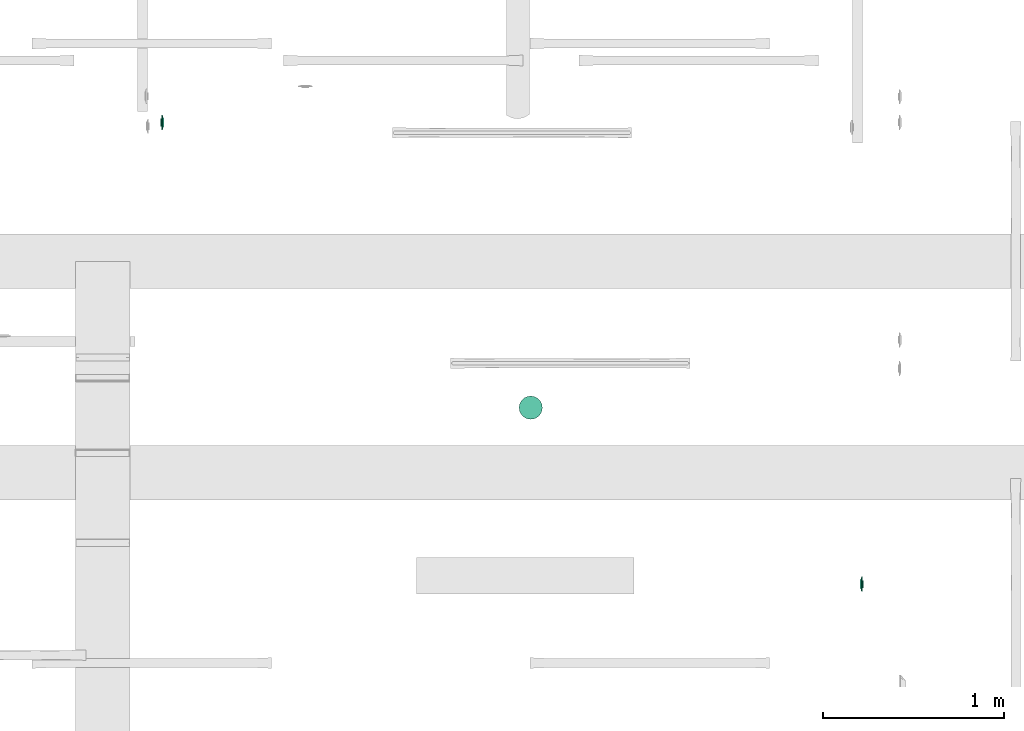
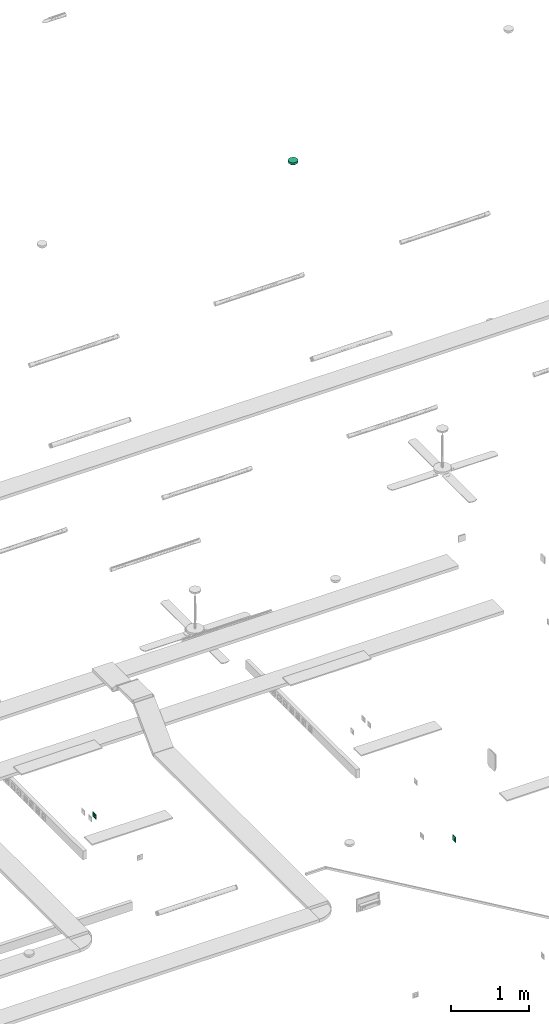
# One storey, part 127 of 153: 3 flow terminals.
"""IFC2X3 building model written with IfcOpenShell, lengths in metres."""

from ifc_helpers import new_model, entity, si_unit, converted_unit, derived_unit, direction, frame, origin, place, context, subcontext, project, spatial, faceted_brep, source, transform, mapped, type_object, type_shapes, element, save


model = new_model("IFC2X3")

# Units and contexts
model_context = context("Model", 3, precision=1e-05, world=origin(), true_north=direction((6.12303176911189e-17, 1.0)))
body_context = subcontext(model_context, "Body", "Model", "MODEL_VIEW")
ifc_project = project(units=[si_unit("LENGTHUNIT", "METRE"), si_unit("AREAUNIT", "SQUARE_METRE"), si_unit("VOLUMEUNIT", "CUBIC_METRE"), converted_unit("PLANEANGLEUNIT", "DEGREE", entity("IfcRatioMeasure", 0.0174532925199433), si_unit("PLANEANGLEUNIT", "RADIAN"), dimensions=[0, 0, 0, 0, 0, 0, 0]), si_unit("MASSUNIT", "GRAM", prefix="KILO"), derived_unit("MASSDENSITYUNIT", [(si_unit("MASSUNIT", "GRAM", prefix="KILO"), 1), (si_unit("LENGTHUNIT", "METRE"), -3)]), si_unit("TIMEUNIT", "SECOND"), si_unit("FREQUENCYUNIT", "HERTZ"), si_unit("THERMODYNAMICTEMPERATUREUNIT", "DEGREE_CELSIUS"), derived_unit("THERMALTRANSMITTANCEUNIT", [(si_unit("MASSUNIT", "GRAM", prefix="KILO"), 1), (si_unit("THERMODYNAMICTEMPERATUREUNIT", "KELVIN"), -1), (si_unit("TIMEUNIT", "SECOND"), -3)]), derived_unit("VOLUMETRICFLOWRATEUNIT", [(si_unit("LENGTHUNIT", "METRE"), 3), (si_unit("TIMEUNIT", "SECOND"), -1)]), si_unit("ELECTRICCURRENTUNIT", "AMPERE"), si_unit("ELECTRICVOLTAGEUNIT", "VOLT"), si_unit("POWERUNIT", "WATT"), si_unit("FORCEUNIT", "NEWTON"), si_unit("ILLUMINANCEUNIT", "LUX"), si_unit("LUMINOUSFLUXUNIT", "LUMEN"), si_unit("LUMINOUSINTENSITYUNIT", "CANDELA"), derived_unit("USERDEFINED", [(si_unit("MASSUNIT", "GRAM", prefix="KILO"), -1), (si_unit("LENGTHUNIT", "METRE"), -2), (si_unit("TIMEUNIT", "SECOND"), 3), (si_unit("LUMINOUSFLUXUNIT", "LUMEN"), 1)]), derived_unit("LINEARVELOCITYUNIT", [(si_unit("LENGTHUNIT", "METRE"), 1), (si_unit("TIMEUNIT", "SECOND"), -1)]), si_unit("PRESSUREUNIT", "PASCAL"), derived_unit("USERDEFINED", [(si_unit("LENGTHUNIT", "METRE"), -2), (si_unit("MASSUNIT", "GRAM", prefix="KILO"), 1), (si_unit("TIMEUNIT", "SECOND"), -2)])], contexts=[model_context])

# Site, building, storey
site_placement = place(None, origin())
site = spatial("IfcSite", under=ifc_project, at=site_placement, Name="Default", CompositionType="ELEMENT")
building_placement = place(site_placement, origin())
building = spatial("IfcBuilding", under=site, at=building_placement, CompositionType="ELEMENT")
storey_placement = place(building_placement, frame((0.0, 0.0, -4.62)))
storey = spatial("IfcBuildingStorey", under=building, at=storey_placement, Name="S02", CompositionType="ELEMENT", Elevation=-4.62)

# Flow terminals
light_fixture_type_1 = type_object("IfcLightFixtureType", Name="Détecteur 360°", PredefinedType="NOTDEFINED")
shared_shape_1 = source(origin(), body_context, "Body", "Brep", [
    faceted_brep([(0.0, -0.0397165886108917, 0.0531256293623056), (0.0, -0.034524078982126, 0.0563702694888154), (-0.0175153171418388, -0.0435914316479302, 0.0478512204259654), (-0.0194029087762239, -0.000878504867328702, 0.0644483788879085), (0.0, 0.0, 0.0669999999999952), (0.0, 0.00603476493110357, 0.0659648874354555), (-0.0174057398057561, -0.0159851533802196, 0.0630502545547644), (-0.0366619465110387, -0.0127227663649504, 0.0549213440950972), (-0.026998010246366, -0.0195753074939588, 0.0584711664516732), (-0.0202403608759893, -0.0335607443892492, 0.054639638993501), (-0.0359767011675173, -0.0348394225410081, 0.0444249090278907), (-0.0276843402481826, -0.0401006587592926, 0.0459804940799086), (-0.0133088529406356, -0.0517577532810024, 0.0400582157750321), (-0.0172617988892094, -0.0486391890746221, 0.042533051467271), (-0.0256912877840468, -0.0533485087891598, 0.0299999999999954), (-0.0462941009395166, -0.0369183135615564, 0.0299999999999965), (0.0, -0.0241390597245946, 0.0628595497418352), (-0.0186245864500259, -0.0267295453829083, 0.0589100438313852), (-0.0139070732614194, -0.0374370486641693, 0.0540817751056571), (0.0, 0.0449090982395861, 0.049880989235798), (-0.0172618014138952, 0.0486391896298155, 0.0425330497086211), (0.0, 0.0397165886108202, 0.0531256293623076), (-0.0186245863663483, 0.0267295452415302, 0.0589100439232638), (-0.0202403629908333, 0.0335607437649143, 0.054639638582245), (-0.0353547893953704, 0.0284533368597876, 0.0494330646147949), (0.0, 0.0120695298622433, 0.0649297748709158), (-0.0249385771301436, 0.0204731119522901, 0.0590841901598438), (-0.0191783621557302, 0.0150189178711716, 0.062775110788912), (-0.0465404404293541, -0.0196510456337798, 0.0438984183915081), (-0.052010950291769, -0.0250471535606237, 0.029999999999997), (-0.0453471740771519, -0.0286501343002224, 0.0397747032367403), (-0.0365036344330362, -0.0226255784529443, 0.0516441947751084), (-0.0175153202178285, 0.0435914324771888, 0.0478512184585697), (-0.0359926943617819, 0.0451334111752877, 0.0299999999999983), (-0.0276843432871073, 0.0401006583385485, 0.0459804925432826), (-0.00849704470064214, -0.0572729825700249, 0.0299999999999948), (0.0, -0.0592123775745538, 0.0299999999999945), (0.0, -0.0545512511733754, 0.0364787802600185), (0.0, -0.049890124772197, 0.0429575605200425), (-0.0169940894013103, -0.055333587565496, 0.0299999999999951), (-0.0359767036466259, 0.0348394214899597, 0.0444249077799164), (-0.025691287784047, 0.0533485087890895, 0.0299999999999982), (-0.0308419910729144, 0.0492409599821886, 0.0299999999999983), (-0.0130265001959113, 0.0514867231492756, 0.040526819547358), (-0.0169940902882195, 0.0553335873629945, 0.029999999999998), (0.0, 0.0498901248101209, 0.0429575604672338), (-0.0353547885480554, -0.0284533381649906, 0.0494330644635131), (0.0, 0.0181042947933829, 0.0638946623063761), (-0.0473669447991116, -0.00128092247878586, 0.0474310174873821), (-0.0485435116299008, -0.00908961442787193, 0.0452357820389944), (-0.0366597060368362, -0.0032867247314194, 0.0563153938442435), (-0.0226425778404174, -0.0107553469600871, 0.0624973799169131), (0.0, -0.00603476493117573, 0.0659648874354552), (0.0, 0.0293315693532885, 0.0596149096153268), (-0.0139070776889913, 0.0374370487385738, 0.0540817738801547), (-0.0449600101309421, 0.018422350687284, 0.0461366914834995), (-0.0453471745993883, 0.0286501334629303, 0.0397747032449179), (-0.0476906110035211, 0.00670602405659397, 0.0466053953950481), (-0.0577277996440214, 0.0131759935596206, 0.0299999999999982), (-0.0577277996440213, 0.00658799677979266, 0.029999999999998), (-0.0577277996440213, 0.0, 0.0299999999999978), (0.0, -0.0449090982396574, 0.0498809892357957), (-0.0308419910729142, -0.049240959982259, 0.0299999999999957), (-0.0359926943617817, -0.0451334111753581, 0.029999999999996), (0.0, 0.0345240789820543, 0.0563702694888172), (-0.0411433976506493, 0.0410258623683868, 0.0299999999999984), (-0.0462941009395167, 0.0369183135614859, 0.0299999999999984), (-0.0491525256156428, -0.03098273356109, 0.0299999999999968), (-0.0577277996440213, -0.0131759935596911, 0.0299999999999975), (0.0, -0.018104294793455, 0.0638946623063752), (-0.0377433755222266, 0.0044838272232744, 0.0554913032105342), (-0.0577277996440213, -0.00658799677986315, 0.0299999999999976), (-0.0385149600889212, 0.0124844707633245, 0.0536578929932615), (-0.0491525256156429, 0.0309827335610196, 0.0299999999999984), (-0.0548693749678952, 0.0191115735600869, 0.0299999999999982), (0.0, 0.0241390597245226, 0.0628595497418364), (-0.014625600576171, 0.0100436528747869, 0.0649170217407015), (-0.0271766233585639, 0.00920278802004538, 0.0609170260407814), (0.0, -0.0120695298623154, 0.0649297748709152), (-0.0520109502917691, 0.0250471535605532, 0.0299999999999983), (-0.0411433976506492, -0.0410258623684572, 0.0299999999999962), (-0.0548693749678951, -0.0191115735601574, 0.0299999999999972), (0.0, -0.0293315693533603, 0.0596149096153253), (0.0, 0.0545512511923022, 0.0364787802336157), (0.0, 0.0592123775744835, 0.0299999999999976), (-0.00849704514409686, 0.057272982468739, 0.0299999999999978), (-0.0127455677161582, 0.0563032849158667, 0.0299999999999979), (-0.0213426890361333, 0.054341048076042, 0.0299999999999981), (0.0175153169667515, 0.0435914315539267, 0.0478512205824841), (0.0194029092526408, 0.000878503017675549, 0.0644483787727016), (0.017405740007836, 0.0159851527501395, 0.0630502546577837), (0.0366619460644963, 0.012722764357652, 0.0549213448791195), (0.0269980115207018, 0.0195753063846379, 0.0584711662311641), (0.0202403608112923, 0.0335607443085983, 0.0546396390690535), (0.0359767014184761, 0.0348394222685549, 0.0444249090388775), (0.0276843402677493, 0.0401006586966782, 0.0459804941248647), (0.0133088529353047, 0.0517577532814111, 0.0400582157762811), (0.0172617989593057, 0.0486391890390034, 0.0425330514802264), (0.0256912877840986, 0.0533485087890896, 0.0299999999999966), (0.0462941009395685, 0.0369183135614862, 0.0299999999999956), (0.00849704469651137, 0.0572729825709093, 0.0299999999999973), (0.0169940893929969, 0.0553335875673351, 0.029999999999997), (0.0172617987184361, -0.0486391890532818, 0.0425330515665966), (0.025691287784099, -0.0533485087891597, 0.0299999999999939), (0.0308419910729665, -0.0492409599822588, 0.0299999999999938), (0.0175153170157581, -0.0435914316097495, 0.0478512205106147), (0.0186245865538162, -0.0267295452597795, 0.0589100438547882), (0.0202403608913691, -0.03356074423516, 0.0546396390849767), (0.0353547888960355, -0.0284533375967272, 0.0494330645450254), (0.0249385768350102, -0.0204731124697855, 0.0590841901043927), (0.0191783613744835, -0.0150189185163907, 0.062775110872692), (0.0465404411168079, 0.0196510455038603, 0.0438984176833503), (0.0577277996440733, 0.0131759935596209, 0.0299999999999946), (0.0548693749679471, 0.0191115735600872, 0.0299999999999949), (0.0520109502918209, 0.0250471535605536, 0.0299999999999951), (0.0365036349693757, 0.0226255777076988, 0.0516441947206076), (0.0186245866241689, 0.0267295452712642, 0.0589100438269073), (0.0359926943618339, -0.0451334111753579, 0.0299999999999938), (0.0276843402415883, -0.0401006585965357, 0.0459804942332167), (0.0139070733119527, 0.0374370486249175, 0.0540817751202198), (0.0359767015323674, -0.0348394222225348, 0.044424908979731), (0.0226425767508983, 0.0107553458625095, 0.0624973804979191), (0.0169940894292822, -0.0553335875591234, 0.0299999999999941), (0.0130264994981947, -0.0514867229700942, 0.0405268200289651), (0.0453471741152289, 0.0286501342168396, 0.039774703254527), (0.0353547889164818, 0.0284533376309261, 0.0494330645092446), (0.0473669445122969, 0.00128092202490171, 0.0474310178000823), (0.0485435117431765, 0.00908961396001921, 0.0452357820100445), (0.0366597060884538, 0.00328672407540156, 0.0563153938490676), (0.0139070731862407, -0.0374370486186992, 0.0540817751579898), (0.0449600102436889, -0.018422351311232, 0.0461366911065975), (0.0453471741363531, -0.0286501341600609, 0.039774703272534), (0.0476906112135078, -0.00670602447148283, 0.046605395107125), (0.0577277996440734, -0.0131759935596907, 0.0299999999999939), (0.0577277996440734, -0.00658799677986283, 0.0299999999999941), (0.0577277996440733, 0.0, 0.0299999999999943), (0.0308419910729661, 0.0492409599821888, 0.0299999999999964), (0.0359926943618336, 0.0451334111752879, 0.0299999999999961), (0.0411433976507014, -0.041025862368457, 0.0299999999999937), (0.0462941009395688, -0.0369183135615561, 0.0299999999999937), (0.0491525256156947, 0.0309827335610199, 0.0299999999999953), (0.037743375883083, -0.00448382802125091, 0.0554913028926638), (0.0577277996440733, 0.00658799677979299, 0.0299999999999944), (0.0385149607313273, -0.0124844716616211, 0.0536578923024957), (0.049152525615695, -0.0309827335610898, 0.0299999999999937), (0.0548693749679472, -0.0191115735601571, 0.0299999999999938), (0.0146256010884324, -0.0100436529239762, 0.0649170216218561), (0.0271766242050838, -0.00920278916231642, 0.0609170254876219), (0.0520109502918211, -0.0250471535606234, 0.0299999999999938), (0.041143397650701, 0.0410258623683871, 0.0299999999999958), (0.00849704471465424, -0.0572729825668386, 0.0299999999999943), (0.0127455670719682, -0.056303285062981, 0.0299999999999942), (0.0213426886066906, -0.0543410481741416, 0.029999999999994), (0.0, 0.0, 0.0299999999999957)], [[[0, 1, 2]], [[3, 4, 5]], [[6, 7, 8]], [[9, 10, 11]], [[12, 13, 14]], [[10, 15, 11]], [[9, 16, 17]], [[18, 9, 11]], [[19, 20, 21]], [[22, 23, 24]], [[25, 26, 27]], [[28, 29, 30]], [[8, 31, 17]], [[32, 33, 34]], [[35, 36, 37, 38, 39]], [[23, 40, 24]], [[20, 41, 42]], [[19, 43, 20]], [[44, 43, 45]], [[20, 32, 21]], [[30, 10, 46]], [[22, 26, 47]], [[48, 49, 50]], [[3, 51, 52]], [[53, 54, 23]], [[55, 24, 56]], [[57, 58, 59, 60]], [[13, 61, 0]], [[13, 0, 2]], [[2, 62, 13]], [[18, 2, 1]], [[2, 11, 63]], [[32, 64, 21]], [[32, 42, 33]], [[34, 33, 65, 66]], [[20, 42, 32]], [[54, 32, 34]], [[28, 30, 31]], [[10, 67, 15]], [[49, 68, 28]], [[8, 17, 69]], [[7, 6, 51]], [[28, 31, 7]], [[57, 48, 70]], [[58, 57, 55]], [[48, 71, 49]], [[70, 48, 50]], [[3, 50, 51]], [[55, 26, 24]], [[72, 57, 70]], [[26, 55, 72]], [[56, 40, 73]], [[56, 74, 55]], [[47, 75, 22]], [[52, 4, 3]], [[7, 50, 49]], [[5, 76, 3]], [[70, 3, 77]], [[51, 78, 52]], [[26, 25, 47]], [[76, 25, 27]], [[23, 22, 75]], [[26, 22, 24]], [[53, 64, 54]], [[23, 34, 40]], [[66, 40, 34]], [[40, 66, 73]], [[56, 73, 79, 74]], [[72, 27, 26]], [[40, 56, 24]], [[23, 75, 53]], [[69, 17, 16]], [[78, 6, 69]], [[46, 10, 9]], [[46, 9, 17]], [[50, 7, 51]], [[30, 29, 67]], [[80, 63, 11, 15]], [[28, 68, 81, 29]], [[10, 30, 67]], [[30, 46, 31]], [[82, 18, 1]], [[82, 16, 9]], [[28, 7, 49]], [[12, 39, 38]], [[61, 13, 12]], [[83, 84, 85, 86, 44, 45]], [[43, 41, 20]], [[44, 87, 41, 43]], [[32, 54, 64]], [[23, 54, 34]], [[9, 18, 82]], [[2, 18, 11]], [[39, 12, 14]], [[38, 61, 12]], [[62, 2, 63]], [[62, 14, 13]], [[17, 31, 46]], [[7, 31, 8]], [[48, 60, 71]], [[71, 68, 49]], [[60, 48, 57]], [[3, 70, 50]], [[72, 70, 77]], [[72, 77, 27]], [[55, 57, 72]], [[74, 58, 55]], [[76, 27, 77]], [[3, 76, 77]], [[25, 76, 5]], [[69, 6, 8]], [[78, 51, 6]], [[45, 43, 19]], [[21, 64, 88]], [[89, 4, 52]], [[90, 91, 92]], [[93, 94, 95]], [[96, 97, 98]], [[94, 99, 95]], [[100, 84, 83, 45, 101]], [[102, 103, 104]], [[102, 105, 0]], [[106, 107, 108]], [[78, 109, 110]], [[111, 112, 113, 114]], [[92, 115, 116]], [[105, 117, 118]], [[119, 93, 95]], [[107, 120, 108]], [[89, 121, 5]], [[122, 123, 38]], [[61, 123, 102]], [[93, 75, 116]], [[124, 94, 125]], [[106, 109, 69]], [[126, 127, 128]], [[61, 102, 0]], [[82, 129, 107]], [[130, 108, 131]], [[132, 133, 134, 135]], [[97, 19, 21]], [[97, 21, 88]], [[88, 136, 97]], [[119, 88, 64]], [[88, 95, 137]], [[105, 1, 0]], [[105, 104, 117]], [[118, 117, 138, 139]], [[102, 104, 105]], [[129, 105, 118]], [[111, 124, 115]], [[94, 140, 99]], [[127, 112, 111]], [[92, 116, 47]], [[91, 90, 121]], [[111, 115, 91]], [[132, 126, 141]], [[133, 132, 130]], [[126, 142, 127]], [[141, 126, 128]], [[89, 128, 121]], [[130, 109, 108]], [[143, 132, 141]], [[109, 130, 143]], [[131, 120, 144]], [[131, 145, 130]], [[69, 16, 106]], [[5, 4, 89]], [[91, 128, 127]], [[52, 146, 89]], [[141, 89, 147]], [[121, 25, 5]], [[109, 78, 69]], [[146, 78, 110]], [[107, 106, 16]], [[109, 106, 108]], [[82, 1, 129]], [[107, 118, 120]], [[139, 120, 118]], [[120, 139, 144]], [[131, 144, 148, 145]], [[143, 110, 109]], [[120, 131, 108]], [[107, 16, 82]], [[47, 116, 75]], [[25, 90, 47]], [[125, 94, 93]], [[125, 93, 116]], [[128, 91, 121]], [[124, 114, 140]], [[149, 137, 95, 99]], [[111, 114, 124]], [[94, 124, 140]], [[124, 125, 115]], [[53, 119, 64]], [[53, 75, 93]], [[111, 91, 127]], [[96, 101, 45]], [[19, 97, 96]], [[37, 36, 150, 151, 122, 38]], [[123, 103, 102]], [[122, 152, 103, 123]], [[105, 129, 1]], [[107, 129, 118]], [[93, 119, 53]], [[88, 119, 95]], [[101, 96, 98]], [[45, 19, 96]], [[136, 88, 137]], [[136, 98, 97]], [[116, 115, 125]], [[91, 115, 92]], [[126, 135, 142]], [[142, 112, 127]], [[135, 126, 132]], [[89, 141, 128]], [[143, 141, 147]], [[143, 147, 110]], [[130, 132, 143]], [[145, 133, 130]], [[146, 110, 147]], [[89, 146, 147]], [[78, 146, 52]], [[47, 90, 92]], [[25, 121, 90]], [[38, 123, 61]], [[153, 66, 65]], [[153, 65, 33]], [[153, 33, 42]], [[153, 42, 41]], [[153, 41, 87]], [[153, 73, 66]], [[153, 79, 73]], [[153, 74, 79]], [[153, 58, 74]], [[153, 87, 44]], [[153, 44, 86]], [[153, 86, 85]], [[153, 85, 84]], [[153, 84, 100]], [[153, 59, 58]], [[153, 60, 59]], [[153, 71, 60]], [[153, 68, 71]], [[153, 81, 68]], [[153, 29, 81]], [[153, 67, 29]], [[153, 15, 67]], [[153, 80, 15]], [[153, 63, 80]], [[153, 62, 63]], [[153, 14, 62]], [[153, 39, 14]], [[153, 35, 39]], [[153, 36, 35]], [[153, 100, 101]], [[153, 101, 98]], [[153, 98, 136]], [[153, 136, 137]], [[153, 137, 149]], [[153, 149, 99]], [[153, 99, 140]], [[153, 140, 114]], [[153, 114, 113]], [[153, 113, 112]], [[153, 112, 142]], [[153, 150, 36]], [[153, 151, 150]], [[153, 122, 151]], [[153, 152, 122]], [[153, 103, 152]], [[153, 104, 103]], [[153, 117, 104]], [[153, 138, 117]], [[153, 139, 138]], [[153, 144, 139]], [[153, 148, 144]], [[153, 145, 148]], [[153, 133, 145]], [[153, 142, 135]], [[153, 135, 134]], [[153, 134, 133]]]),
    faceted_brep([(0.0165644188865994, -0.0618192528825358, 0.029999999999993), (0.0320000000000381, -0.0554256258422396, 0.0299999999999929), (0.0452548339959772, -0.0452548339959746, 0.0299999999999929), (0.0554256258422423, -0.0320000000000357, 0.029999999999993), (0.0618192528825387, -0.016564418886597, 0.0299999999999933), (0.0640000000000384, 0.0, 0.0299999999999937), (0.0618192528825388, 0.016564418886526, 0.0299999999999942), (0.0554256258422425, 0.0319999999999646, 0.0299999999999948), (0.0452548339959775, 0.0452548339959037, 0.0299999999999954), (0.0320000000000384, 0.0554256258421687, 0.0299999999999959), (0.0165644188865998, 0.061819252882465, 0.0299999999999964), (0.0, 0.0639999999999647, 0.0299999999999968), (-0.0165644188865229, 0.061819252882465, 0.0299999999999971), (-0.0319999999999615, 0.0554256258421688, 0.0299999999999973), (-0.0452548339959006, 0.0452548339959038, 0.0299999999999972), (-0.0554256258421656, 0.0319999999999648, 0.0299999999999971), (-0.0618192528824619, 0.0165644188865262, 0.0299999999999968), (-0.0639999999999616, 0.0, 0.0299999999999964), (-0.061819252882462, -0.0165644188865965, 0.0299999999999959), (-0.0554256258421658, -0.0320000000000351, 0.0299999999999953), (-0.0452548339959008, -0.0452548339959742, 0.0299999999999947), (-0.0319999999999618, -0.0554256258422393, 0.0299999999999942), (-0.0165644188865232, -0.0618192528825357, 0.0299999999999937), (0.0, -0.0640000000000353, 0.0299999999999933), (0.0165644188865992, 0.0618192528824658, 0.0), (0.0320000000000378, 0.0554256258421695, 0.0), (0.0452548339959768, 0.0452548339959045, 0.0), (0.0554256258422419, 0.0319999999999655, 0.0), (0.0618192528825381, 0.0165644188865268, 0.0), (0.0640000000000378, 0.0, 0.0), (0.061819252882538, -0.0165644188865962, 0.0), (0.0554256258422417, -0.0320000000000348, 0.0), (0.0452548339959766, -0.0452548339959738, 0.0), (0.0320000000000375, -0.0554256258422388, 0.0), (0.0165644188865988, -0.061819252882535, 0.0), (0.0, -0.0640000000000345, 0.0), (-0.0165644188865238, -0.0618192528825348, 0.0), (-0.0319999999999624, -0.0554256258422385, 0.0), (-0.0452548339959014, -0.0452548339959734, 0.0), (-0.0554256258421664, -0.0320000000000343, 0.0), (-0.0618192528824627, -0.0165644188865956, 0.0), (-0.0639999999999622, 0.0, 0.0), (-0.0618192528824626, 0.016564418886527, 0.0), (-0.0554256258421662, 0.0319999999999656, 0.0), (-0.0452548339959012, 0.0452548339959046, 0.0), (-0.0319999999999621, 0.0554256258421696, 0.0), (-0.0165644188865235, 0.0618192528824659, 0.0), (0.0, 0.0639999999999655, 0.0)], [[[0, 1, 2, 3, 4, 5, 6, 7, 8, 9, 10, 11, 12, 13, 14, 15, 16, 17, 18, 19, 20, 21, 22, 23]], [[24, 25, 26, 27, 28, 29, 30, 31, 32, 33, 34, 35, 36, 37, 38, 39, 40, 41, 42, 43, 44, 45, 46, 47]], [[40, 18, 17, 41]], [[39, 19, 18, 40]], [[21, 20, 38, 37]], [[39, 38, 20, 19]], [[22, 21, 37, 36]], [[23, 22, 36, 35]], [[34, 0, 23, 35]], [[33, 1, 0, 34]], [[3, 2, 32, 31]], [[33, 32, 2, 1]], [[4, 3, 31, 30]], [[5, 4, 30, 29]], [[28, 6, 5, 29]], [[27, 7, 6, 28]], [[9, 8, 26, 25]], [[27, 26, 8, 7]], [[10, 9, 25, 24]], [[11, 10, 24, 47]], [[46, 12, 11, 47]], [[45, 13, 12, 46]], [[42, 41, 17, 16]], [[44, 14, 13, 45]], [[43, 15, 14, 44]], [[43, 42, 16, 15]]]),
])
type_shapes(light_fixture_type_1, [shared_shape_1])
flow_terminal_placement = place(building_placement, frame((59.5604544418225, -189.50606962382, 6.93), z_axis=(0.0, 0.0, -1.0), x_axis=(-1.0, 0.0, 0.0)))
element("IfcFlowTerminal", 1, at=flow_terminal_placement, inside=storey, type_object=light_fixture_type_1, Name="INT - Détecteur Luminosite:Détecteur 360°", ObjectType="INT - Détecteur Luminosite:Détecteur 360°", context=body_context, shape_type="MappedRepresentation", body=[
    mapped(shared_shape_1, transform((0.0, 0.0, 0.0), scale=1.0)),
])
light_fixture_type_2 = type_object("IfcLightFixtureType", Name="VV IP21", PredefinedType="NOTDEFINED")
shared_shape_2 = source(origin(), body_context, "Body", "Brep", [
    faceted_brep([(0.0, 0.0209999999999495, -0.00460000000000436), (0.00543519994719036, 0.02028444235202, -0.00460000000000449), (0.0105000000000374, 0.0181865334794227, -0.00460000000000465), (0.0148492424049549, 0.014849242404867, -0.00460000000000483), (0.0181865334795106, 0.0104999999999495, -0.00460000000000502), (0.0202844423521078, 0.00543519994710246, -0.00460000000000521), (0.0210000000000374, 0.0, -0.00460000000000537), (0.0202844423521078, -0.00543519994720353, -0.00460000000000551), (0.0181865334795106, -0.0105000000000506, -0.0046000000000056), (0.0148492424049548, -0.0148492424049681, -0.00460000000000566), (0.0105000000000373, -0.0181865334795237, -0.00460000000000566), (0.00543519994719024, -0.0202844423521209, -0.00460000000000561), (0.0, -0.0210000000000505, -0.00460000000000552), (-0.00543519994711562, -0.0202844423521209, -0.00460000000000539), (-0.0104999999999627, -0.0181865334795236, -0.00460000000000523), (-0.0148492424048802, -0.0148492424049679, -0.00460000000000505), (-0.0181865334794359, -0.0105000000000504, -0.00460000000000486), (-0.0202844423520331, -0.00543519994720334, -0.00460000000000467), (-0.0209999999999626, 0.0, -0.00460000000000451), (-0.020284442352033, 0.00543519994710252, -0.00460000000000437), (-0.0181865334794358, 0.0104999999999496, -0.00460000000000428), (-0.0148492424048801, 0.0148492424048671, -0.00460000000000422), (-0.0104999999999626, 0.0181865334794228, -0.00460000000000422), (-0.00543519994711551, 0.02028444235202, -0.00460000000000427), (-0.020284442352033, -0.00543519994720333, 0.0), (-0.0209999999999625, 0.0, 0.0), (-0.0181865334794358, -0.0105000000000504, 0.0), (-0.0104999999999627, -0.0181865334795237, 0.0), (-0.0148492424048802, -0.0148492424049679, 0.0), (-0.00543519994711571, -0.020284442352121, 0.0), (0.0, -0.0210000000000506, 0.0), (0.00543519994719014, -0.0202844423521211, 0.0), (0.0105000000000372, -0.018186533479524, 0.0), (0.0181865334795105, -0.0105000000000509, 0.0), (0.0148492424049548, -0.0148492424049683, 0.0), (0.0202844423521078, -0.00543519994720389, 0.0), (0.0210000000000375, 0.0, 0.0), (0.0202844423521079, 0.00543519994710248, 0.0), (0.0181865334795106, 0.0104999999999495, 0.0), (0.0105000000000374, 0.0181865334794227, 0.0), (0.0148492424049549, 0.014849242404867, 0.0), (0.00543519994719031, 0.0202844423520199, 0.0), (0.0, 0.0209999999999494, 0.0), (-0.00543519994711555, 0.0202844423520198, 0.0), (-0.0104999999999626, 0.0181865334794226, 0.0), (-0.0181865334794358, 0.0104999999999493, 0.0), (-0.0148492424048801, 0.0148492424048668, 0.0), (-0.020284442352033, 0.00543519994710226, 0.0)], [[[0, 1, 2, 3, 4, 5, 6, 7, 8, 9, 10, 11, 12, 13, 14, 15, 16, 17, 18, 19, 20, 21, 22, 23]], [[17, 24, 25, 18]], [[16, 26, 24, 17]], [[27, 28, 15, 14]], [[16, 15, 28, 26]], [[29, 27, 14, 13]], [[30, 29, 13, 12]], [[11, 31, 30, 12]], [[10, 32, 31, 11]], [[33, 34, 9, 8]], [[10, 9, 34, 32]], [[35, 33, 8, 7]], [[36, 35, 7, 6]], [[5, 37, 36, 6]], [[4, 38, 37, 5]], [[39, 40, 3, 2]], [[4, 3, 40, 38]], [[41, 39, 2, 1]], [[42, 41, 1, 0]], [[23, 43, 42, 0]], [[22, 44, 43, 23]], [[45, 46, 21, 20]], [[22, 21, 46, 44]], [[47, 45, 20, 19]], [[25, 47, 19, 18]], [[25, 24, 26, 28, 27, 29, 30, 31, 32, 34, 33, 35, 36, 37, 38, 40, 39, 41, 42, 43, 44, 46, 45, 47]]]),
    faceted_brep([(0.0270000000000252, 0.026999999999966, 0.0103999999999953), (-0.0269999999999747, 0.026999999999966, 0.0103999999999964), (-0.0269999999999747, -0.0270000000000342, 0.0103999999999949), (0.0270000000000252, -0.0270000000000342, 0.0103999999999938), (-0.0254999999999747, 0.0258096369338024, 0.0103999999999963), (0.0255000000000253, 0.0258096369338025, 0.0103999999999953), (0.0255000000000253, -0.0255000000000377, 0.0103999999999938), (-0.0254999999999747, -0.0255000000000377, 0.0103999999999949), (0.0270000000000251, 0.0269999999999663, 0.00199999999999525), (0.0270000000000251, -0.0270000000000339, 0.00199999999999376), (-0.0269999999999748, -0.0270000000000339, 0.00199999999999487), (-0.0269999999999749, 0.0269999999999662, 0.00199999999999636), (0.0255000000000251, 0.0258096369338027, 0.00199999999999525), (-0.0254999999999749, 0.0258096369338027, 0.0019999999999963), (-0.0254999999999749, -0.0255000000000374, 0.00199999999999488), (0.0255000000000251, -0.0255000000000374, 0.00199999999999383)], [[[0, 1, 2, 3], [4, 5, 6, 7]], [[8, 9, 10, 11], [12, 13, 14, 15]], [[1, 0, 8, 11]], [[2, 1, 11, 10]], [[3, 2, 10, 9]], [[0, 3, 9, 8]], [[12, 5, 4, 13]], [[13, 4, 7, 14]], [[14, 7, 6, 15]], [[5, 12, 15, 6]]]),
    faceted_brep([(0.0250000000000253, 0.0253096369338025, 0.00659999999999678), (0.0250000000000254, 0.0253096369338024, 0.0117095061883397), (0.0250000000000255, -0.0245000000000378, 0.0142232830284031), (0.0250000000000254, -0.0250000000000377, 0.0117095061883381), (0.0250000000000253, -0.0250000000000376, 0.00659999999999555), (-0.0249999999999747, 0.0253096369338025, 0.00659999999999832), (-0.0249999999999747, -0.0250000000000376, 0.00659999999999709), (-0.0249999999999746, -0.0250000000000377, 0.0117095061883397), (-0.0249999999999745, -0.0245000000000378, 0.0142232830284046), (-0.0249999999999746, 0.0253096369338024, 0.0117095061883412)], [[[0, 1, 2, 3, 4]], [[5, 6, 7, 8, 9]], [[1, 0, 5, 9]], [[2, 1, 9, 8]], [[3, 2, 8, 7]], [[4, 3, 7, 6]], [[0, 4, 6, 5]]]),
    faceted_brep([(0.027000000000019, 0.0269999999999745, 0.00659999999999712), (-0.0269999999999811, 0.0269999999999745, 0.00659999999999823), (-0.026999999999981, -0.0270000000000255, 0.00659999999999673), (0.027000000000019, -0.0270000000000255, 0.00659999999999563), (0.040350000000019, 0.0403499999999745, 0.00659999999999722), (0.040350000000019, -0.0403500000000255, 0.00659999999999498), (-0.0403499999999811, -0.0403500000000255, 0.00659999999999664), (-0.0403499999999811, 0.0403499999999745, 0.00659999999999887), (-0.026999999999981, 0.0269999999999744, 0.0103999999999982), (0.027000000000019, 0.0269999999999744, 0.0103999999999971), (-0.026999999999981, -0.0270000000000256, 0.0103999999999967), (0.027000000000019, -0.0270000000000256, 0.0103999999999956)], [[[0, 1, 2, 3], [4, 5, 6, 7]], [[4, 7, 8, 9]], [[7, 6, 10, 8]], [[6, 5, 11, 10]], [[5, 4, 9, 11]], [[0, 9, 8, 1]], [[1, 8, 10, 2]], [[2, 10, 11, 3]], [[9, 0, 3, 11]]], outer=[[False, True], [True], [True], [True], [True], [True], [True], [True], [True]]),
    faceted_brep([(0.040350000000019, 0.0403499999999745, 0.00659999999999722), (-0.0403499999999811, 0.0403499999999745, 0.00659999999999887), (-0.0403499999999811, -0.0403500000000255, 0.00659999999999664), (0.040350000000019, -0.0403500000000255, 0.00659999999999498), (-0.0269999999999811, 0.0269999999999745, 0.00659999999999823), (0.0270000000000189, 0.0269999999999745, 0.00659999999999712), (0.0270000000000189, -0.0270000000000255, 0.00659999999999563), (-0.0269999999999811, -0.0270000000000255, 0.00659999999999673), (0.0403500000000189, 0.0403499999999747, 0.0), (0.0403500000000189, -0.0403500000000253, 0.0), (-0.0403499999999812, -0.0403500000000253, 0.0), (-0.0403499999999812, 0.0403499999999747, 0.0), (0.0270000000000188, 0.0269999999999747, 0.0), (-0.0269999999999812, 0.0269999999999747, 0.0), (-0.0269999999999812, -0.0270000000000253, 0.0), (0.0270000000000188, -0.0270000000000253, 0.0)], [[[0, 1, 2, 3], [4, 5, 6, 7]], [[8, 9, 10, 11], [12, 13, 14, 15]], [[1, 0, 8, 11]], [[2, 1, 11, 10]], [[3, 2, 10, 9]], [[0, 3, 9, 8]], [[12, 5, 4, 13]], [[13, 4, 7, 14]], [[14, 7, 6, 15]], [[5, 12, 15, 6]]]),
])
type_shapes(light_fixture_type_2, [shared_shape_2])
for number, where, z_axis, x_axis in (
    (2, (61.3897436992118, -190.478389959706, 0.880000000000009), (-1.0, 0.0, 0.0), (0.0, -1.0, 0.0)),
    (3, (57.5247436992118, -187.934488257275, 1.05000000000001), (1.0, 0.0, 0.0), (0.0, 1.0, 0.0)),
):
    element("IfcFlowTerminal", number, at=place(storey_placement, frame(where, z_axis=z_axis, x_axis=x_axis)), inside=storey, type_object=light_fixture_type_2, Name="INT_Inter VV:VV IP21", ObjectType="INT_Inter VV:VV IP21", context=body_context, shape_type="MappedRepresentation", body=[
        mapped(shared_shape_2, transform((0.0, 0.0, 0.0), scale=1.0)),
    ])

save(model, "model.ifc")
